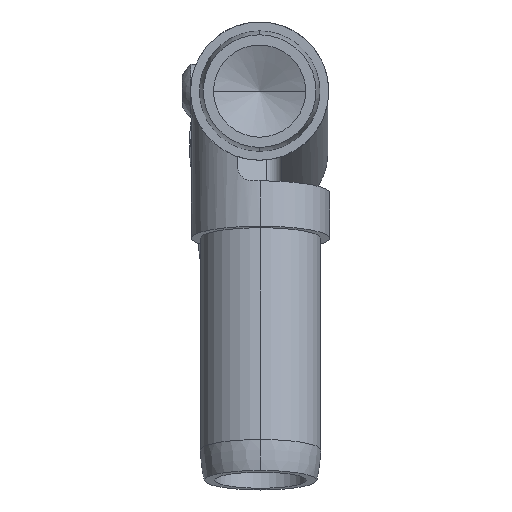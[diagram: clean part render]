
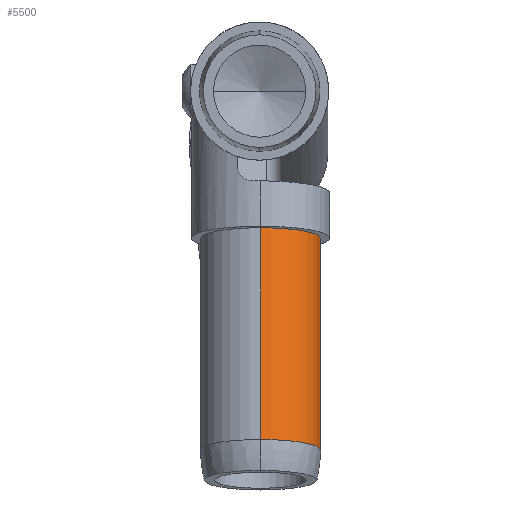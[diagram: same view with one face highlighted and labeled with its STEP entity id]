
A CAD part, left-side view. The second image highlights one B-rep face of the part: STEP entity #5500.
In plain terms, the highlighted cylindrical face has radius 12.446 mm (diameter 24.892 mm), a partial arc.
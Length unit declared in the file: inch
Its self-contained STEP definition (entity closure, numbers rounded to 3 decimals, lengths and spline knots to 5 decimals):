
#834 = ORIENTED_EDGE ( 'NONE', *, *, #3757, .F. ) ;
#1245 = DIRECTION ( 'NONE',  ( -0.174, 0., -0.985 ) ) ;
#2630 = VECTOR ( 'NONE', #6584, 39.37008 ) ;
#2843 = EDGE_CURVE ( 'NONE', #3102, #8798, #13228, .T. ) ;
#3102 = VERTEX_POINT ( 'NONE', #5049 ) ;
#3695 = ORIENTED_EDGE ( 'NONE', *, *, #8537, .T. ) ;
#3757 = EDGE_CURVE ( 'NONE', #4824, #3102, #6559, .T. ) ;
#3771 = VECTOR ( 'NONE', #4345, 39.37008 ) ;
#4345 = DIRECTION ( 'NONE',  ( -0.174, 0., -0.985 ) ) ;
#4376 = CARTESIAN_POINT ( 'NONE',  ( 0.98555, 1.40392, -3.46992 ) ) ;
#4824 = VERTEX_POINT ( 'NONE', #4376 ) ;
#4845 = CARTESIAN_POINT ( 'NONE',  ( 0.63825, 1.40392, -5.43954 ) ) ;
#4864 = ORIENTED_EDGE ( 'NONE', *, *, #12292, .T. ) ;
#4959 = CARTESIAN_POINT ( 'NONE',  ( -0.28345, 1.40392, -5.02316 ) ) ;
#5030 = CYLINDRICAL_SURFACE ( 'NONE', #9868, 0.49 ) ;
#5049 = CARTESIAN_POINT ( 'NONE',  ( 0.68167, 1.40392, -5.19334 ) ) ;
#5389 = LINE ( 'NONE', #6570, #2630 ) ;
#5500 = ADVANCED_FACE ( 'NONE', ( #11963 ), #5030, .T. ) ;
#5555 = DIRECTION ( 'NONE',  ( -0.985, 0., 0.174 ) ) ;
#5615 = AXIS2_PLACEMENT_3D ( 'NONE', #12943, #12923, #12896 ) ;
#5751 = DIRECTION ( 'NONE',  ( -0.174, 0., -0.985 ) ) ;
#5766 = CARTESIAN_POINT ( 'NONE',  ( 0.1557, 1.40392, -5.35445 ) ) ;
#6271 = ORIENTED_EDGE ( 'NONE', *, *, #2843, .F. ) ;
#6559 = LINE ( 'NONE', #4845, #3771 ) ;
#6570 = CARTESIAN_POINT ( 'NONE',  ( -0.32686, 1.40392, -5.26936 ) ) ;
#6584 = DIRECTION ( 'NONE',  ( -0.174, 0., -0.985 ) ) ;
#7542 = CARTESIAN_POINT ( 'NONE',  ( 0.50299, 1.40392, -3.38483 ) ) ;
#8298 = CARTESIAN_POINT ( 'NONE',  ( 0.02044, 1.40392, -3.29975 ) ) ;
#8374 = CIRCLE ( 'NONE', #11780, 0.49 ) ;
#8537 = EDGE_CURVE ( 'NONE', #11901, #8798, #5389, .T. ) ;
#8583 = DIRECTION ( 'NONE',  ( -0.985, 0., 0.174 ) ) ;
#8798 = VERTEX_POINT ( 'NONE', #4959 ) ;
#9868 = AXIS2_PLACEMENT_3D ( 'NONE', #5766, #5751, #5555 ) ;
#11780 = AXIS2_PLACEMENT_3D ( 'NONE', #7542, #1245, #8583 ) ;
#11901 = VERTEX_POINT ( 'NONE', #8298 ) ;
#11963 = FACE_OUTER_BOUND ( 'NONE', #12663, .T. ) ;
#12292 = EDGE_CURVE ( 'NONE', #4824, #11901, #8374, .T. ) ;
#12663 = EDGE_LOOP ( 'NONE', ( #834, #4864, #3695, #6271 ) ) ;
#12896 = DIRECTION ( 'NONE',  ( -0.985, 0., 0.174 ) ) ;
#12923 = DIRECTION ( 'NONE',  ( -0.174, 0., -0.985 ) ) ;
#12943 = CARTESIAN_POINT ( 'NONE',  ( 0.19911, 1.40392, -5.10825 ) ) ;
#13228 = CIRCLE ( 'NONE', #5615, 0.49 ) ;
